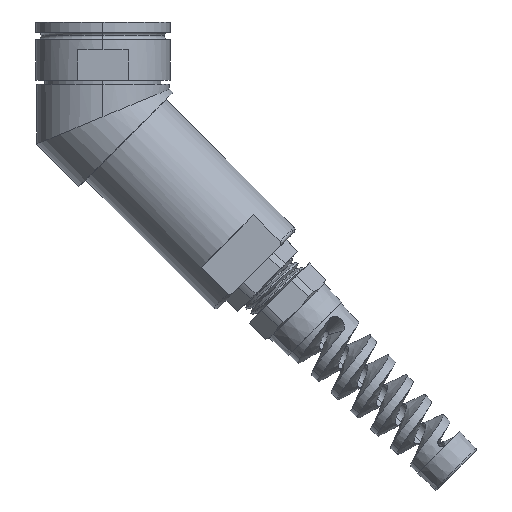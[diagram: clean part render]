
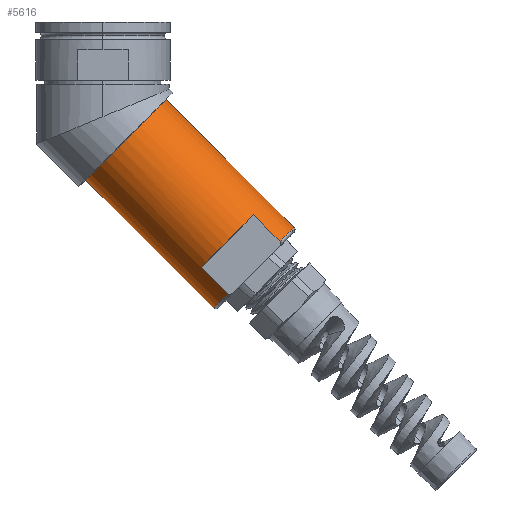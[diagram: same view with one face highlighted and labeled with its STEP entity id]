
A CAD part, left-side view. The second image highlights one B-rep face of the part: STEP entity #5616.
In plain terms, the highlighted cylindrical face has radius 17.691 mm (diameter 35.382 mm), a partial arc.
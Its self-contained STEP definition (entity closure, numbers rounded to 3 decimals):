
#362 = ORIENTED_EDGE ( 'NONE', *, *, #1877, .F. ) ;
#420 = CARTESIAN_POINT ( 'NONE',  ( 0., -46.941, -70.729 ) ) ;
#727 = ORIENTED_EDGE ( 'NONE', *, *, #6789, .F. ) ;
#920 = VERTEX_POINT ( 'NONE', #3506 ) ;
#939 = DIRECTION ( 'NONE',  ( 0., -0.707, 0.707 ) ) ;
#1165 = EDGE_CURVE ( 'NONE', #8626, #15651, #7814, .T. ) ;
#1357 = VECTOR ( 'NONE', #12946, 1000. ) ;
#1372 = CARTESIAN_POINT ( 'NONE',  ( -13.399, -30.51, -70.636 ) ) ;
#1877 = EDGE_CURVE ( 'NONE', #920, #14160, #8366, .T. ) ;
#2562 = CIRCLE ( 'NONE', #11296, 17.691 ) ;
#3147 = ORIENTED_EDGE ( 'NONE', *, *, #15979, .F. ) ;
#3204 = AXIS2_PLACEMENT_3D ( 'NONE', #420, #13661, #12379 ) ;
#3336 = ORIENTED_EDGE ( 'NONE', *, *, #12121, .T. ) ;
#3473 = DIRECTION ( 'NONE',  ( 0., 0.707, 0.707 ) ) ;
#3506 = CARTESIAN_POINT ( 'NONE',  ( -13.399, -46.848, -54.298 ) ) ;
#3658 = VECTOR ( 'NONE', #14804, 1000. ) ;
#3745 = CARTESIAN_POINT ( 'NONE',  ( 0., -19.722, -18.491 ) ) ;
#3874 = DIRECTION ( 'NONE',  ( 0., -0.707, -0.707 ) ) ;
#4335 = VERTEX_POINT ( 'NONE', #8877 ) ;
#4396 = CYLINDRICAL_SURFACE ( 'NONE', #9600, 17.691 ) ;
#4538 = DIRECTION ( 'NONE',  ( 0., -0.707, -0.707 ) ) ;
#4568 = CARTESIAN_POINT ( 'NONE',  ( 0., -7.212, -31. ) ) ;
#4624 = LINE ( 'NONE', #5647, #10380 ) ;
#4663 = EDGE_CURVE ( 'NONE', #920, #4335, #4624, .T. ) ;
#5146 = LINE ( 'NONE', #11492, #16840 ) ;
#5616 = ADVANCED_FACE ( 'NONE', ( #16115 ), #4396, .T. ) ;
#5647 = CARTESIAN_POINT ( 'NONE',  ( -13.399, -46.848, -54.298 ) ) ;
#5977 = DIRECTION ( 'NONE',  ( 0., -0.707, 0.707 ) ) ;
#6789 = EDGE_CURVE ( 'NONE', #8626, #8607, #13020, .T. ) ;
#7252 = CARTESIAN_POINT ( 'NONE',  ( 0., -38.679, -62.467 ) ) ;
#7814 = CIRCLE ( 'NONE', #3204, 17.691 ) ;
#8100 = LINE ( 'NONE', #9542, #3658 ) ;
#8366 = CIRCLE ( 'NONE', #15745, 17.691 ) ;
#8604 = ORIENTED_EDGE ( 'NONE', *, *, #1165, .T. ) ;
#8607 = VERTEX_POINT ( 'NONE', #10170 ) ;
#8626 = VERTEX_POINT ( 'NONE', #13864 ) ;
#8819 = VERTEX_POINT ( 'NONE', #9794 ) ;
#8836 = DIRECTION ( 'NONE',  ( 0., 0.707, 0.707 ) ) ;
#8877 = CARTESIAN_POINT ( 'NONE',  ( -13.399, -55.109, -62.56 ) ) ;
#9192 = EDGE_CURVE ( 'NONE', #8607, #16733, #2562, .T. ) ;
#9477 = ORIENTED_EDGE ( 'NONE', *, *, #9192, .F. ) ;
#9504 = CARTESIAN_POINT ( 'NONE',  ( -13.399, -38.772, -78.898 ) ) ;
#9542 = CARTESIAN_POINT ( 'NONE',  ( 0., -19.722, -18.491 ) ) ;
#9600 = AXIS2_PLACEMENT_3D ( 'NONE', #4568, #10793, #16035 ) ;
#9794 = CARTESIAN_POINT ( 'NONE',  ( 0., -59.45, -58.22 ) ) ;
#10170 = CARTESIAN_POINT ( 'NONE',  ( 0., 5.297, -43.51 ) ) ;
#10380 = VECTOR ( 'NONE', #4538, 1000. ) ;
#10793 = DIRECTION ( 'NONE',  ( 0., 0.707, 0.707 ) ) ;
#11296 = AXIS2_PLACEMENT_3D ( 'NONE', #12729, #8836, #939 ) ;
#11372 = EDGE_CURVE ( 'NONE', #4335, #8819, #14878, .T. ) ;
#11492 = CARTESIAN_POINT ( 'NONE',  ( -13.399, -30.51, -70.636 ) ) ;
#11755 = ORIENTED_EDGE ( 'NONE', *, *, #11372, .T. ) ;
#12121 = EDGE_CURVE ( 'NONE', #8819, #16733, #8100, .T. ) ;
#12379 = DIRECTION ( 'NONE',  ( 0., -0.707, 0.707 ) ) ;
#12609 = CARTESIAN_POINT ( 'NONE',  ( 0., -46.941, -70.729 ) ) ;
#12729 = CARTESIAN_POINT ( 'NONE',  ( 0., -7.212, -31. ) ) ;
#12946 = DIRECTION ( 'NONE',  ( 0., 0.707, 0.707 ) ) ;
#12965 = AXIS2_PLACEMENT_3D ( 'NONE', #12609, #3473, #16373 ) ;
#13020 = LINE ( 'NONE', #14236, #1357 ) ;
#13661 = DIRECTION ( 'NONE',  ( 0., 0.707, 0.707 ) ) ;
#13864 = CARTESIAN_POINT ( 'NONE',  ( 0., -34.431, -83.238 ) ) ;
#14050 = DIRECTION ( 'NONE',  ( 0., -0.707, -0.707 ) ) ;
#14160 = VERTEX_POINT ( 'NONE', #1372 ) ;
#14236 = CARTESIAN_POINT ( 'NONE',  ( 0., 5.297, -43.51 ) ) ;
#14804 = DIRECTION ( 'NONE',  ( 0., 0.707, 0.707 ) ) ;
#14878 = CIRCLE ( 'NONE', #12965, 17.691 ) ;
#15320 = ORIENTED_EDGE ( 'NONE', *, *, #4663, .T. ) ;
#15484 = EDGE_LOOP ( 'NONE', ( #727, #8604, #3147, #362, #15320, #11755, #3336, #9477 ) ) ;
#15651 = VERTEX_POINT ( 'NONE', #9504 ) ;
#15745 = AXIS2_PLACEMENT_3D ( 'NONE', #7252, #14050, #5977 ) ;
#15979 = EDGE_CURVE ( 'NONE', #14160, #15651, #5146, .T. ) ;
#16035 = DIRECTION ( 'NONE',  ( 0., -0.707, 0.707 ) ) ;
#16115 = FACE_OUTER_BOUND ( 'NONE', #15484, .T. ) ;
#16373 = DIRECTION ( 'NONE',  ( 0., -0.707, 0.707 ) ) ;
#16733 = VERTEX_POINT ( 'NONE', #3745 ) ;
#16840 = VECTOR ( 'NONE', #3874, 1000. ) ;
